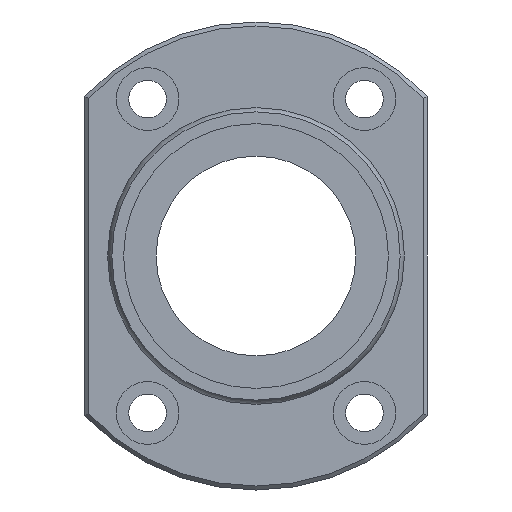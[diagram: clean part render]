
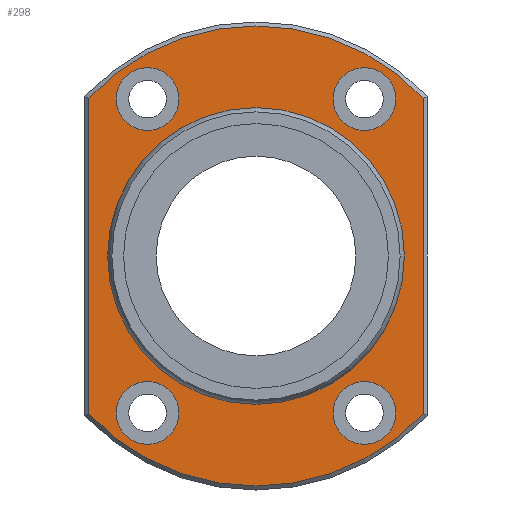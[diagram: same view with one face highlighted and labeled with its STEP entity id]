
A CAD part, left-side view. The second image highlights one B-rep face of the part: STEP entity #298.
In plain terms, the highlighted planar face has unit normal (-1, 0, 0).
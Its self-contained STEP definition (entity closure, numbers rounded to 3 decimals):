
#59=CARTESIAN_POINT('',(69.,-29.3,27.669));
#60=VERTEX_POINT('',#59);
#68=CARTESIAN_POINT('',(69.,-29.3,-27.669));
#69=VERTEX_POINT('',#68);
#70=CARTESIAN_POINT('',(69.,-29.3,27.669));
#71=DIRECTION('',(0.0,0.0,-1.0));
#72=VECTOR('',#71,55.339);
#73=LINE('',#70,#72);
#74=EDGE_CURVE('',#60,#69,#73,.T.);
#101=CARTESIAN_POINT('',(69.,29.3,-27.669));
#102=VERTEX_POINT('',#101);
#103=CARTESIAN_POINT('',(69.,0.0,0.0));
#104=DIRECTION('',(1.0,0.0,0.0));
#105=DIRECTION('',(0.0,0.0,-1.0));
#106=AXIS2_PLACEMENT_3D('',#103,#104,#105);
#107=CIRCLE('',#106,40.3);
#108=EDGE_CURVE('',#69,#102,#107,.T.);
#134=CARTESIAN_POINT('',(69.,29.3,27.669));
#135=VERTEX_POINT('',#134);
#136=CARTESIAN_POINT('',(69.,29.3,-27.669));
#137=DIRECTION('',(0.0,0.0,1.0));
#138=VECTOR('',#137,55.339);
#139=LINE('',#136,#138);
#140=EDGE_CURVE('',#102,#135,#139,.T.);
#165=CARTESIAN_POINT('',(69.,0.0,0.0));
#166=DIRECTION('',(1.0,0.0,0.0));
#167=DIRECTION('',(0.0,0.0,1.0));
#168=AXIS2_PLACEMENT_3D('',#165,#166,#167);
#169=CIRCLE('',#168,40.3);
#170=EDGE_CURVE('',#135,#60,#169,.T.);
#232=CARTESIAN_POINT('',(69.,0.0,33.357));
#233=DIRECTION('',(-1.0,0.0,0.0));
#234=DIRECTION('',(0.0,0.0,1.0));
#235=AXIS2_PLACEMENT_3D('',#232,#233,#234);
#236=PLANE('',#235);
#237=ORIENTED_EDGE('',*,*,#74,.F.);
#238=ORIENTED_EDGE('',*,*,#170,.F.);
#239=ORIENTED_EDGE('',*,*,#140,.F.);
#240=ORIENTED_EDGE('',*,*,#108,.F.);
#241=EDGE_LOOP('',(#237,#238,#239,#240));
#242=FACE_OUTER_BOUND('',#241,.T.);
#243=CARTESIAN_POINT('',(69.,0.0,25.714));
#244=VERTEX_POINT('',#243);
#245=CARTESIAN_POINT('',(69.,0.0,0.0));
#246=DIRECTION('',(-1.0,0.0,0.0));
#247=DIRECTION('',(0.0,0.0,1.0));
#248=AXIS2_PLACEMENT_3D('',#245,#246,#247);
#249=CIRCLE('',#248,25.714);
#250=EDGE_CURVE('',#244,#244,#249,.T.);
#251=ORIENTED_EDGE('',*,*,#250,.F.);
#252=EDGE_LOOP('',(#251));
#253=FACE_BOUND('',#252,.T.);
#254=CARTESIAN_POINT('',(69.0,-13.5,-27.5));
#255=VERTEX_POINT('',#254);
#256=CARTESIAN_POINT('',(69.,-19.,-27.5));
#257=DIRECTION('',(1.0,0.0,0.0));
#258=DIRECTION('',(0.0,1.0,0.0));
#259=AXIS2_PLACEMENT_3D('',#256,#257,#258);
#260=CIRCLE('',#259,5.5);
#261=EDGE_CURVE('',#255,#255,#260,.T.);
#262=ORIENTED_EDGE('',*,*,#261,.T.);
#263=EDGE_LOOP('',(#262));
#264=FACE_BOUND('',#263,.T.);
#265=CARTESIAN_POINT('',(69.0,-13.5,27.5));
#266=VERTEX_POINT('',#265);
#267=CARTESIAN_POINT('',(69.,-19.,27.5));
#268=DIRECTION('',(1.0,0.0,0.0));
#269=DIRECTION('',(0.0,1.0,0.0));
#270=AXIS2_PLACEMENT_3D('',#267,#268,#269);
#271=CIRCLE('',#270,5.5);
#272=EDGE_CURVE('',#266,#266,#271,.T.);
#273=ORIENTED_EDGE('',*,*,#272,.T.);
#274=EDGE_LOOP('',(#273));
#275=FACE_BOUND('',#274,.T.);
#276=CARTESIAN_POINT('',(69.0,24.5,-27.5));
#277=VERTEX_POINT('',#276);
#278=CARTESIAN_POINT('',(69.,19.,-27.5));
#279=DIRECTION('',(1.0,0.0,0.0));
#280=DIRECTION('',(0.0,1.0,0.0));
#281=AXIS2_PLACEMENT_3D('',#278,#279,#280);
#282=CIRCLE('',#281,5.5);
#283=EDGE_CURVE('',#277,#277,#282,.T.);
#284=ORIENTED_EDGE('',*,*,#283,.T.);
#285=EDGE_LOOP('',(#284));
#286=FACE_BOUND('',#285,.T.);
#287=CARTESIAN_POINT('',(69.0,24.5,27.5));
#288=VERTEX_POINT('',#287);
#289=CARTESIAN_POINT('',(69.,19.,27.5));
#290=DIRECTION('',(1.0,0.0,0.0));
#291=DIRECTION('',(0.0,1.0,0.0));
#292=AXIS2_PLACEMENT_3D('',#289,#290,#291);
#293=CIRCLE('',#292,5.5);
#294=EDGE_CURVE('',#288,#288,#293,.T.);
#295=ORIENTED_EDGE('',*,*,#294,.T.);
#296=EDGE_LOOP('',(#295));
#297=FACE_BOUND('',#296,.T.);
#298=ADVANCED_FACE('',(#242,#253,#264,#275,#286,#297),#236,.T.);
